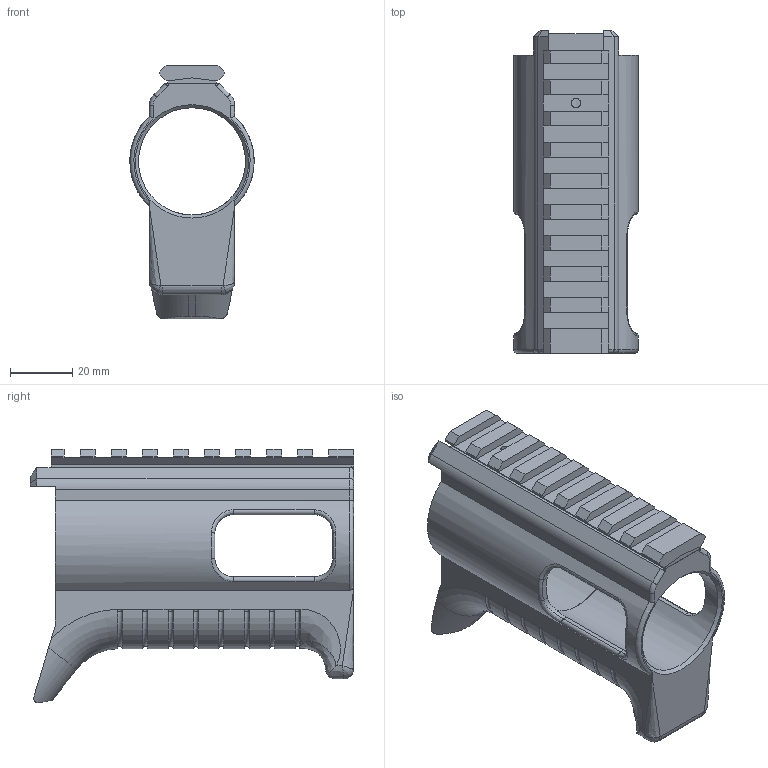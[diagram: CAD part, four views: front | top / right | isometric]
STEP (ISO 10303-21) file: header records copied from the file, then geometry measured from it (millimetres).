
FILE_DESCRIPTION(/* description */ (''),/* implementation_level */ '2;1');
FILE_NAME(/* name */ 'C:/Users/jeremy/OneDrive/Desktop/SG22 Handguard Release.step',/* time_stamp */ '2021-03-18T08:53:25-06:00',/* author */ (''),/* organization */ (''),/* preprocessor_version */ 'ST-DEVELOPER v18.1',/* originating_system */ 'Autodesk Translation Framework v9.10.0.1330',/* authorisation */ '');
FILE_SCHEMA (('AUTOMOTIVE_DESIGN { 1 0 10303 214 3 1 1 }'));
Length unit declared in the file: millimetre
Products named in the file (1): Brace V2
Bounding box: 40 x 104 x 81.71 mm (x, y, z)
Volume: 85152.4 mm3; surface area: 30352.3 mm2
Topology: 1 solids, 1 shells, 277 faces, 690 edges, 405 vertices
Faces by surface type: plane 153, cylinder 56, bspline 38, torus 26, cone 4
Full cylindrical faces by diameter (mm): 34.5 x1, 36.5 x1
Entity records: 11483 total; most frequent: CARTESIAN_POINT 5223, ORIENTED_EDGE 1368, DIRECTION 1161, EDGE_CURVE 684, LINE 411, VECTOR 411, VERTEX_POINT 405, AXIS2_PLACEMENT_3D 375
